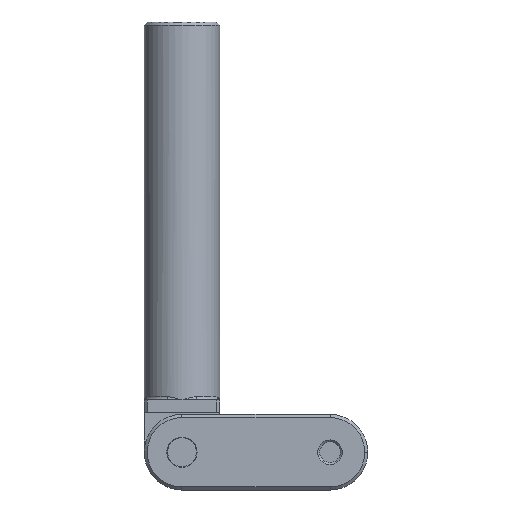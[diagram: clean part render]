
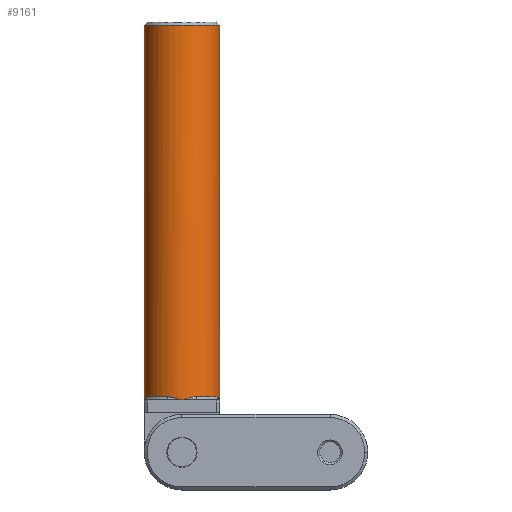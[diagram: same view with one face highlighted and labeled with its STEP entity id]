
A CAD part, front view. The second image highlights one B-rep face of the part: STEP entity #9161.
In plain terms, the highlighted cylindrical face has radius 6 mm (diameter 12 mm), a partial arc.
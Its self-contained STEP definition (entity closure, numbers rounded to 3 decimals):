
#4 = FACE_OUTER_BOUND ( 'NONE', #5948, .T. ) ;
#127 = CYLINDRICAL_SURFACE ( 'NONE', #17676, 6. ) ;
#660 = CARTESIAN_POINT ( 'NONE',  ( -47.54, -10.45, -22.616 ) ) ;
#662 = CARTESIAN_POINT ( 'NONE',  ( -35.577, -9.675, -22.85 ) ) ;
#898 = CARTESIAN_POINT ( 'NONE',  ( -35.777, -11.222, -22.432 ) ) ;
#1481 = CARTESIAN_POINT ( 'NONE',  ( -47.577, -9.675, 36.65 ) ) ;
#1541 = EDGE_CURVE ( 'NONE', #9881, #4520, #17111, .T. ) ;
#1822 = B_SPLINE_CURVE_WITH_KNOTS ( 'NONE', 3,
 ( #9199, #12728, #7642, #898, #14538, #21391, #5939, #6051, #12951, #19819 ),
 .UNSPECIFIED., .F., .F.,
 ( 4, 2, 2, 2, 4 ),
 ( 0., 0.001, 0.001, 0.002, 0.002 ),
 .UNSPECIFIED. ) ;
#1892 = VERTEX_POINT ( 'NONE', #5548 ) ;
#2246 = CARTESIAN_POINT ( 'NONE',  ( -47.378, -11.222, -22.432 ) ) ;
#3215 = EDGE_CURVE ( 'NONE', #4520, #11949, #5615, .T. ) ;
#3314 = CARTESIAN_POINT ( 'NONE',  ( -40.224, -15.524, -22.474 ) ) ;
#3416 = AXIS2_PLACEMENT_3D ( 'NONE', #20659, #8812, #17506 ) ;
#3462 = CARTESIAN_POINT ( 'NONE',  ( -43.885, -15.213, -22.35 ) ) ;
#3568 = CARTESIAN_POINT ( 'NONE',  ( -42.353, -15.628, -22.622 ) ) ;
#3720 = CARTESIAN_POINT ( 'NONE',  ( -47.116, -11.983, -22.35 ) ) ;
#4137 = CARTESIAN_POINT ( 'NONE',  ( -47.194, -11.794, -22.35 ) ) ;
#4485 = DIRECTION ( 'NONE',  ( 1., 0., 0. ) ) ;
#4520 = VERTEX_POINT ( 'NONE', #21584 ) ;
#5135 = CARTESIAN_POINT ( 'NONE',  ( -43.125, -15.475, -22.432 ) ) ;
#5548 = CARTESIAN_POINT ( 'NONE',  ( -47.577, -9.675, -22.85 ) ) ;
#5589 = EDGE_CURVE ( 'NONE', #10535, #16505, #15674, .T. ) ;
#5615 = B_SPLINE_CURVE_WITH_KNOTS ( 'NONE', 3,
 ( #8357, #20517, #20412, #3314, #9910, #13786, #10133, #11613 ),
 .UNSPECIFIED., .F., .F.,
 ( 4, 2, 2, 4 ),
 ( 0., 0.001, 0.002, 0.002 ),
 .UNSPECIFIED. ) ;
#5908 = EDGE_CURVE ( 'NONE', #1892, #19027, #17246, .T. ) ;
#5939 = CARTESIAN_POINT ( 'NONE',  ( -35.625, -10.45, -22.622 ) ) ;
#5948 = EDGE_LOOP ( 'NONE', ( #16413, #18008, #15379, #21500, #22119, #17862, #22077, #6420, #7847 ) ) ;
#6051 = CARTESIAN_POINT ( 'NONE',  ( -35.587, -10.064, -22.733 ) ) ;
#6114 = CARTESIAN_POINT ( 'NONE',  ( -36.039, -11.983, -22.35 ) ) ;
#6181 = CARTESIAN_POINT ( 'NONE',  ( -41.577, -9.675, -22.35 ) ) ;
#6420 = ORIENTED_EDGE ( 'NONE', *, *, #10276, .T. ) ;
#7301 = CARTESIAN_POINT ( 'NONE',  ( -41.577, -9.675, 37.15 ) ) ;
#7642 = CARTESIAN_POINT ( 'NONE',  ( -35.893, -11.605, -22.371 ) ) ;
#7847 = ORIENTED_EDGE ( 'NONE', *, *, #10164, .T. ) ;
#7898 = AXIS2_PLACEMENT_3D ( 'NONE', #6181, #13075, #4485 ) ;
#8357 = CARTESIAN_POINT ( 'NONE',  ( -41.577, -15.675, -22.85 ) ) ;
#8399 = CARTESIAN_POINT ( 'NONE',  ( -41.771, -15.675, -22.792 ) ) ;
#8415 = DIRECTION ( 'NONE',  ( 1., 0., 0. ) ) ;
#8621 = CARTESIAN_POINT ( 'NONE',  ( -41.966, -15.665, -22.733 ) ) ;
#8812 = DIRECTION ( 'NONE',  ( 0., 0., -1. ) ) ;
#9161 = ADVANCED_FACE ( 'NONE', ( #4 ), #127, .T. ) ;
#9199 = CARTESIAN_POINT ( 'NONE',  ( -36.039, -11.983, -22.35 ) ) ;
#9208 = EDGE_CURVE ( 'NONE', #16505, #1892, #10756, .T. ) ;
#9302 = DIRECTION ( 'NONE',  ( 0., 0., -1. ) ) ;
#9881 = VERTEX_POINT ( 'NONE', #19965 ) ;
#9910 = CARTESIAN_POINT ( 'NONE',  ( -40.03, -15.475, -22.432 ) ) ;
#10133 = CARTESIAN_POINT ( 'NONE',  ( -39.458, -15.292, -22.35 ) ) ;
#10164 = EDGE_CURVE ( 'NONE', #13056, #19236, #1822, .T. ) ;
#10176 = CARTESIAN_POINT ( 'NONE',  ( -43.508, -15.36, -22.371 ) ) ;
#10276 = EDGE_CURVE ( 'NONE', #11949, #13056, #14514, .T. ) ;
#10535 = VERTEX_POINT ( 'NONE', #14952 ) ;
#10747 = CARTESIAN_POINT ( 'NONE',  ( -47.577, -9.675, -22.85 ) ) ;
#10756 = LINE ( 'NONE', #12610, #10790 ) ;
#10790 = VECTOR ( 'NONE', #9302, 1000. ) ;
#10860 = CARTESIAN_POINT ( 'NONE',  ( -47.262, -11.605, -22.371 ) ) ;
#10973 = CARTESIAN_POINT ( 'NONE',  ( -47.116, -11.983, -22.35 ) ) ;
#11613 = CARTESIAN_POINT ( 'NONE',  ( -39.27, -15.213, -22.35 ) ) ;
#11664 = DIRECTION ( 'NONE',  ( 0., 0., -1. ) ) ;
#11949 = VERTEX_POINT ( 'NONE', #18105 ) ;
#12610 = CARTESIAN_POINT ( 'NONE',  ( -47.577, -9.675, 37.15 ) ) ;
#12728 = CARTESIAN_POINT ( 'NONE',  ( -35.961, -11.794, -22.35 ) ) ;
#12951 = CARTESIAN_POINT ( 'NONE',  ( -35.577, -9.868, -22.792 ) ) ;
#13056 = VERTEX_POINT ( 'NONE', #6114 ) ;
#13075 = DIRECTION ( 'NONE',  ( 0., 0., 1. ) ) ;
#13303 = CIRCLE ( 'NONE', #7898, 6. ) ;
#13434 = AXIS2_PLACEMENT_3D ( 'NONE', #20933, #15318, #8415 ) ;
#13786 = CARTESIAN_POINT ( 'NONE',  ( -39.647, -15.36, -22.371 ) ) ;
#14303 = DIRECTION ( 'NONE',  ( -1., 0., 0. ) ) ;
#14404 = CARTESIAN_POINT ( 'NONE',  ( -47.577, -10.064, -22.733 ) ) ;
#14514 = CIRCLE ( 'NONE', #13434, 6. ) ;
#14538 = CARTESIAN_POINT ( 'NONE',  ( -35.729, -11.028, -22.474 ) ) ;
#14952 = CARTESIAN_POINT ( 'NONE',  ( -35.577, -9.675, 36.65 ) ) ;
#15072 = LINE ( 'NONE', #21942, #19171 ) ;
#15193 = CARTESIAN_POINT ( 'NONE',  ( -42.931, -15.524, -22.474 ) ) ;
#15318 = DIRECTION ( 'NONE',  ( 0., 0., 1. ) ) ;
#15379 = ORIENTED_EDGE ( 'NONE', *, *, #9208, .T. ) ;
#15674 = CIRCLE ( 'NONE', #3416, 6. ) ;
#16006 = DIRECTION ( 'NONE',  ( 0., 0., -1. ) ) ;
#16413 = ORIENTED_EDGE ( 'NONE', *, *, #18459, .F. ) ;
#16505 = VERTEX_POINT ( 'NONE', #1481 ) ;
#16868 = CARTESIAN_POINT ( 'NONE',  ( -43.697, -15.292, -22.35 ) ) ;
#17111 = B_SPLINE_CURVE_WITH_KNOTS ( 'NONE', 3,
 ( #3462, #16868, #10176, #5135, #15193, #19009, #3568, #8621, #8399, #20349 ),
 .UNSPECIFIED., .F., .F.,
 ( 4, 2, 2, 2, 4 ),
 ( 0., 0.001, 0.001, 0.002, 0.002 ),
 .UNSPECIFIED. ) ;
#17246 = B_SPLINE_CURVE_WITH_KNOTS ( 'NONE', 3,
 ( #10747, #14404, #660, #17674, #2246, #10860, #4137, #10973 ),
 .UNSPECIFIED., .F., .F.,
 ( 4, 2, 2, 4 ),
 ( 0., 0.001, 0.002, 0.002 ),
 .UNSPECIFIED. ) ;
#17506 = DIRECTION ( 'NONE',  ( 1., 0., 0. ) ) ;
#17674 = CARTESIAN_POINT ( 'NONE',  ( -47.426, -11.028, -22.474 ) ) ;
#17676 = AXIS2_PLACEMENT_3D ( 'NONE', #7301, #16006, #14303 ) ;
#17862 = ORIENTED_EDGE ( 'NONE', *, *, #1541, .T. ) ;
#18008 = ORIENTED_EDGE ( 'NONE', *, *, #5589, .T. ) ;
#18105 = CARTESIAN_POINT ( 'NONE',  ( -39.27, -15.213, -22.35 ) ) ;
#18459 = EDGE_CURVE ( 'NONE', #10535, #19236, #15072, .T. ) ;
#19009 = CARTESIAN_POINT ( 'NONE',  ( -42.545, -15.6, -22.569 ) ) ;
#19027 = VERTEX_POINT ( 'NONE', #3720 ) ;
#19171 = VECTOR ( 'NONE', #11664, 1000. ) ;
#19236 = VERTEX_POINT ( 'NONE', #662 ) ;
#19819 = CARTESIAN_POINT ( 'NONE',  ( -35.577, -9.675, -22.85 ) ) ;
#19965 = CARTESIAN_POINT ( 'NONE',  ( -43.885, -15.213, -22.35 ) ) ;
#20349 = CARTESIAN_POINT ( 'NONE',  ( -41.577, -15.675, -22.85 ) ) ;
#20412 = CARTESIAN_POINT ( 'NONE',  ( -40.802, -15.638, -22.616 ) ) ;
#20517 = CARTESIAN_POINT ( 'NONE',  ( -41.189, -15.675, -22.733 ) ) ;
#20659 = CARTESIAN_POINT ( 'NONE',  ( -41.577, -9.675, 36.65 ) ) ;
#20933 = CARTESIAN_POINT ( 'NONE',  ( -41.577, -9.675, -22.35 ) ) ;
#21236 = EDGE_CURVE ( 'NONE', #19027, #9881, #13303, .T. ) ;
#21391 = CARTESIAN_POINT ( 'NONE',  ( -35.653, -10.643, -22.569 ) ) ;
#21500 = ORIENTED_EDGE ( 'NONE', *, *, #5908, .T. ) ;
#21584 = CARTESIAN_POINT ( 'NONE',  ( -41.577, -15.675, -22.85 ) ) ;
#21942 = CARTESIAN_POINT ( 'NONE',  ( -35.577, -9.675, 37.15 ) ) ;
#22077 = ORIENTED_EDGE ( 'NONE', *, *, #3215, .T. ) ;
#22119 = ORIENTED_EDGE ( 'NONE', *, *, #21236, .T. ) ;
